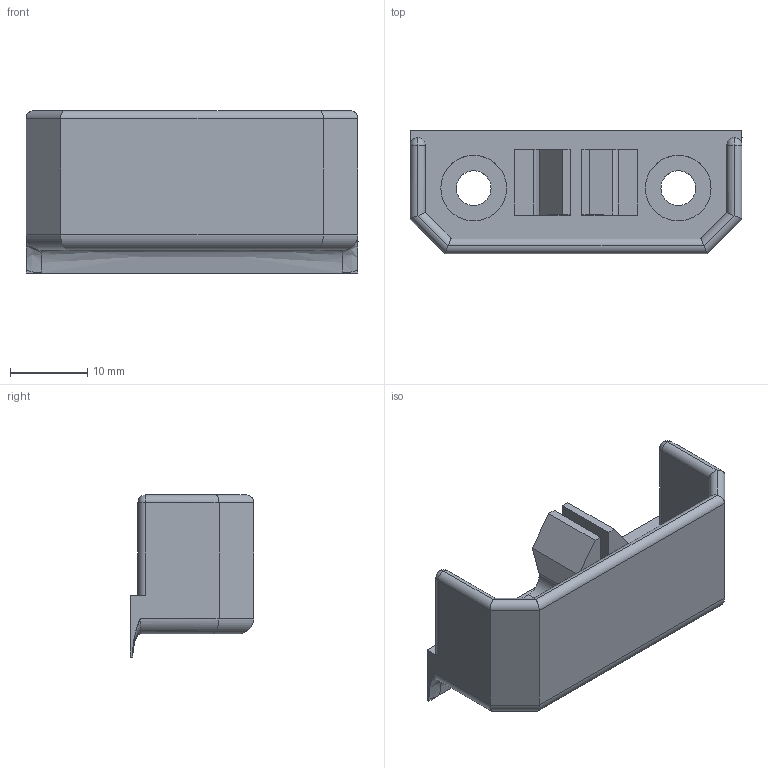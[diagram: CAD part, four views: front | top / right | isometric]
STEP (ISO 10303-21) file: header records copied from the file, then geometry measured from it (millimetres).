
FILE_DESCRIPTION (( 'STEP AP203' ), '1' );
FILE_NAME ('013.100.005.STEP', '2020-10-27T13:30:07', ( '' ), ( '' ), 'SwSTEP 2.0', 'SolidWorks 2018', '' );
FILE_SCHEMA (( 'CONFIG_CONTROL_DESIGN' ));
Length unit declared in the file: millimetre
Products named in the file (1): 013.100.005
Bounding box: 43 x 16 x 21 mm (x, y, z)
Volume: 5428.1 mm3; surface area: 4469.1 mm2
Topology: 1 solids, 1 shells, 71 faces, 171 edges, 102 vertices
Faces by surface type: plane 34, cylinder 30, sphere 4, bspline 3
Entity records: 2188 total; most frequent: CARTESIAN_POINT 521, ORIENTED_EDGE 334, DIRECTION 319, EDGE_CURVE 167, LINE 109, VECTOR 109, AXIS2_PLACEMENT_3D 105, VERTEX_POINT 102
